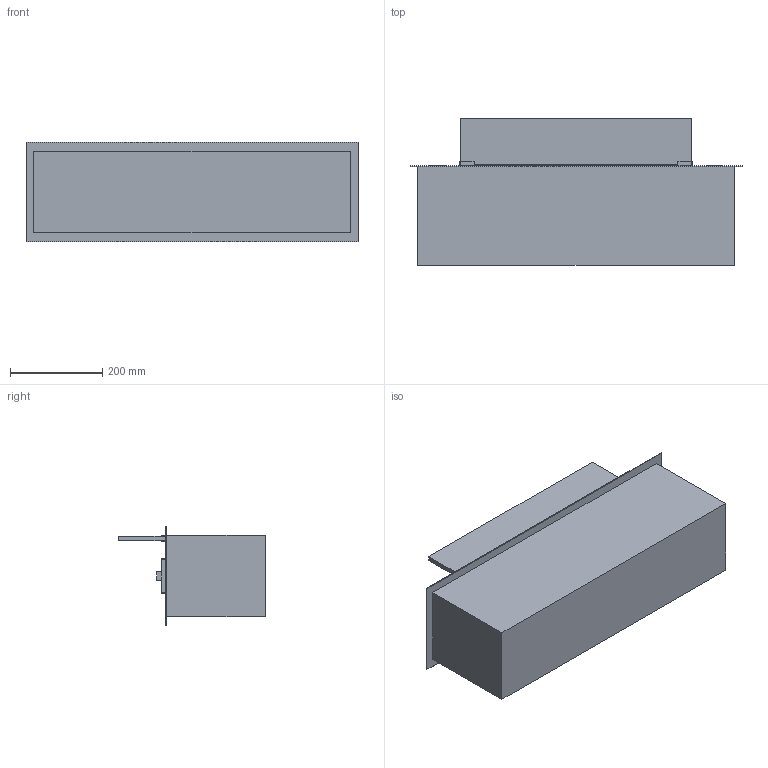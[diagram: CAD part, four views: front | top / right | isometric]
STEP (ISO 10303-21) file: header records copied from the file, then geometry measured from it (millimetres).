
FILE_DESCRIPTION (( 'STEP AP203' ), '1' );
FILE_NAME ('Hybrid mist 720.STEP', '2024-03-13T10:11:19', ( '' ), ( '' ), 'SwSTEP 2.0', 'SolidWorks 2023', '' );
FILE_SCHEMA (( 'CONFIG_CONTROL_DESIGN' ));
Length unit declared in the file: millimetre
Products named in the file (1): Hybrid mist 720
Bounding box: 720 x 317 x 215 mm (x, y, z)
Volume: 27139366 mm3; surface area: 1104294 mm2
Topology: 8 solids, 8 shells, 77 faces, 180 edges, 120 vertices
Faces by surface type: plane 77
Entity records: 2229 total; most frequent: CARTESIAN_POINT 378, ORIENTED_EDGE 360, DIRECTION 336, LINE 180, EDGE_CURVE 180, VECTOR 180, VERTEX_POINT 120, EDGE_LOOP 84
